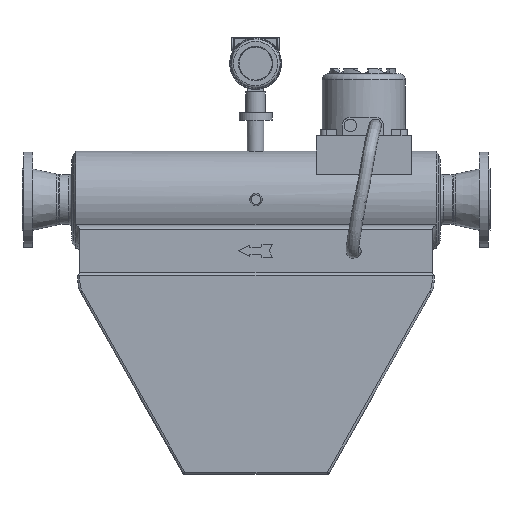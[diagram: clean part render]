
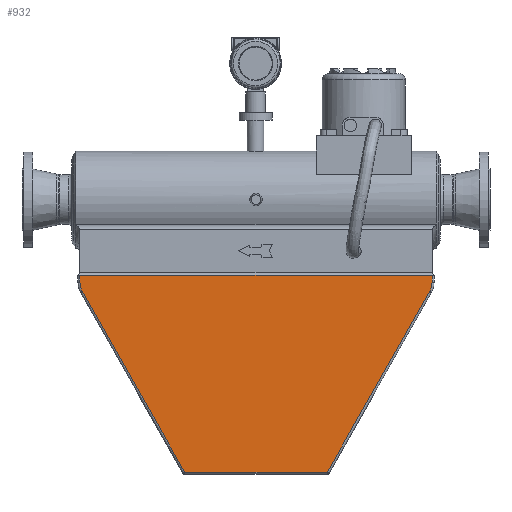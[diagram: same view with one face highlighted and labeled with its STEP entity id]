
A CAD part, top view. The second image highlights one B-rep face of the part: STEP entity #932.
In plain terms, the highlighted planar face has unit normal (0, 0, 1).
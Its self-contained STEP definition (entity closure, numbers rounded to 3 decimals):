
#932=ADVANCED_FACE('',(#4582),#4584,.T.);
#4582=FACE_BOUND('',#4583,.T.);
#4583=EDGE_LOOP('',(#7627,#7628,#7629,#7630,#7631,#7632,#7633,#7634));
#4584=PLANE('',#4585);
#4585=AXIS2_PLACEMENT_3D('',#4586,#4587,#4588);
#4586=CARTESIAN_POINT('',(-139.427,-367.092,1346.));
#4587=DIRECTION('',(0.,-0.,1.));
#4588=DIRECTION('',(1.,0.,-0.));
#7627=ORIENTED_EDGE('',*,*,#9778,.F.);
#7628=ORIENTED_EDGE('',*,*,#9779,.T.);
#7629=ORIENTED_EDGE('',*,*,#9780,.T.);
#7630=ORIENTED_EDGE('',*,*,#9781,.T.);
#7631=ORIENTED_EDGE('',*,*,#9782,.F.);
#7632=ORIENTED_EDGE('',*,*,#9783,.T.);
#7633=ORIENTED_EDGE('',*,*,#9663,.T.);
#7634=ORIENTED_EDGE('',*,*,#9777,.T.);
#9663=EDGE_CURVE('',#10771,#10769,#10772,.T.);
#9777=EDGE_CURVE('',#10769,#10956,#10958,.T.);
#9778=EDGE_CURVE('',#10959,#10956,#10960,.T.);
#9779=EDGE_CURVE('',#10959,#10961,#10962,.T.);
#9780=EDGE_CURVE('',#10961,#10963,#10964,.T.);
#9781=EDGE_CURVE('',#10963,#10965,#10966,.T.);
#9782=EDGE_CURVE('',#10967,#10965,#10968,.T.);
#9783=EDGE_CURVE('',#10967,#10771,#10969,.T.);
#10769=VERTEX_POINT('',#13696);
#10771=VERTEX_POINT('',#13756);
#10772=LINE('',#13757,#13758);
#10956=VERTEX_POINT('',#14716);
#10958=LINE('',#14721,#14722);
#10959=VERTEX_POINT('',#14724);
#10960=CIRCLE('',#14725,45.);
#10961=VERTEX_POINT('',#14729);
#10962=LINE('',#14730,#14731);
#10963=VERTEX_POINT('',#14733);
#10964=LINE('',#14734,#14735);
#10965=VERTEX_POINT('',#14737);
#10966=LINE('',#14738,#14739);
#10967=VERTEX_POINT('',#14741);
#10968=CIRCLE('',#14742,45.);
#10969=LINE('',#14746,#14747);
#13696=CARTESIAN_POINT('',(-564.427,112.908,1346.));
#13756=CARTESIAN_POINT('',(285.573,112.908,1346.));
#13757=CARTESIAN_POINT('',(285.573,112.908,1346.));
#13758=VECTOR('',#13759,1.);
#13759=DIRECTION('',(-1.,0.,0.));
#14716=CARTESIAN_POINT('',(-564.427,96.09,1346.));
#14721=CARTESIAN_POINT('',(-564.427,112.908,1346.));
#14722=VECTOR('',#14723,1.);
#14723=DIRECTION('',(0.,-1.,0.));
#14724=CARTESIAN_POINT('',(-558.578,73.905,1346.));
#14725=AXIS2_PLACEMENT_3D('',#14726,#14727,#14728);
#14726=CARTESIAN_POINT('',(-519.427,96.09,1346.));
#14727=DIRECTION('',(-0.,0.,-1.));
#14728=DIRECTION('',(-0.87,-0.493,0.));
#14729=CARTESIAN_POINT('',(-311.514,-362.092,1346.));
#14730=CARTESIAN_POINT('',(-558.578,73.905,1346.));
#14731=VECTOR('',#14732,1.);
#14732=DIRECTION('',(0.493,-0.87,0.));
#14733=CARTESIAN_POINT('',(32.659,-362.092,1346.));
#14734=CARTESIAN_POINT('',(-311.514,-362.092,1346.));
#14735=VECTOR('',#14736,1.);
#14736=DIRECTION('',(1.,0.,0.));
#14737=CARTESIAN_POINT('',(279.724,73.905,1346.));
#14738=CARTESIAN_POINT('',(32.659,-362.092,1346.));
#14739=VECTOR('',#14740,1.);
#14740=DIRECTION('',(0.493,0.87,0.));
#14741=CARTESIAN_POINT('',(285.573,96.09,1346.));
#14742=AXIS2_PLACEMENT_3D('',#14743,#14744,#14745);
#14743=CARTESIAN_POINT('',(240.573,96.09,1346.));
#14744=DIRECTION('',(0.,0.,-1.));
#14745=DIRECTION('',(1.,0.,0.));
#14746=CARTESIAN_POINT('',(285.573,96.09,1346.));
#14747=VECTOR('',#14748,1.);
#14748=DIRECTION('',(0.,1.,0.));
